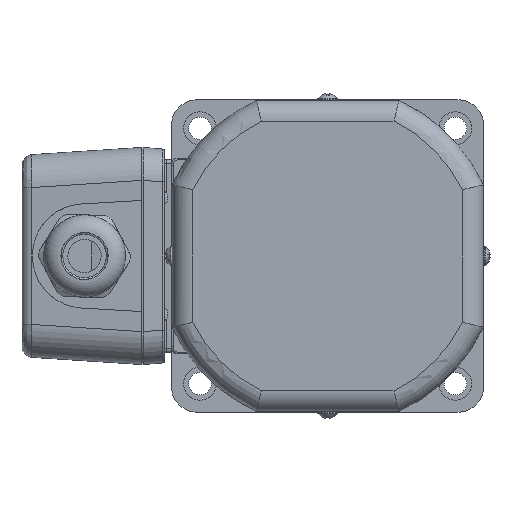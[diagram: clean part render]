
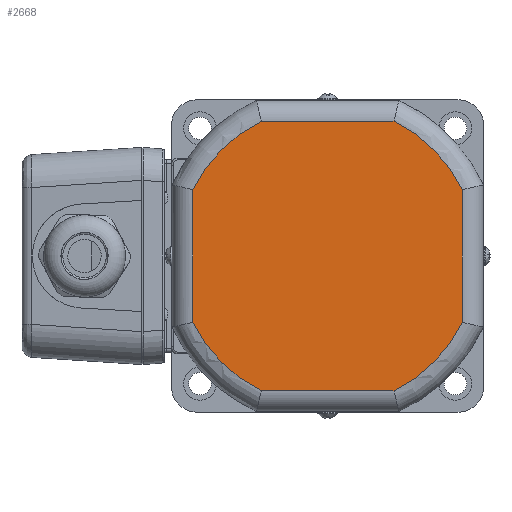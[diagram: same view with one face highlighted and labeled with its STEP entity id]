
A CAD part, left-side view. The second image highlights one B-rep face of the part: STEP entity #2668.
In plain terms, the highlighted planar face has unit normal (-1, 0, 0) as drawn and (0, 0, -1) by its records, which use the part's own axes.
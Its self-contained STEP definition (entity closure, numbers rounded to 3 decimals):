
#2001=CARTESIAN_POINT('',(38.8,-19.108,0.0));
#2002=VERTEX_POINT('',#2001);
#2029=CARTESIAN_POINT('',(19.108,-38.8,0.0));
#2030=VERTEX_POINT('',#2029);
#2048=CARTESIAN_POINT('',(0.0,0.0,0.0));
#2049=DIRECTION('',(0.0,0.0,1.0));
#2050=DIRECTION('',(0.707,-0.707,0.0));
#2051=AXIS2_PLACEMENT_3D('',#2048,#2049,#2050);
#2052=CIRCLE('',#2051,43.25);
#2053=EDGE_CURVE('',#2030,#2002,#2052,.T.);
#2065=CARTESIAN_POINT('',(-19.108,-38.8,0.0));
#2066=VERTEX_POINT('',#2065);
#2084=CARTESIAN_POINT('',(-19.108,-38.8,0.0));
#2085=DIRECTION('',(1.0,0.0,0.0));
#2086=VECTOR('',#2085,38.216);
#2087=LINE('',#2084,#2086);
#2088=EDGE_CURVE('',#2066,#2030,#2087,.T.);
#2107=CARTESIAN_POINT('',(38.8,19.108,0.0));
#2108=VERTEX_POINT('',#2107);
#2133=CARTESIAN_POINT('',(38.8,-19.108,0.0));
#2134=DIRECTION('',(0.0,1.0,0.0));
#2135=VECTOR('',#2134,38.216);
#2136=LINE('',#2133,#2135);
#2137=EDGE_CURVE('',#2002,#2108,#2136,.T.);
#2149=CARTESIAN_POINT('',(-38.8,-19.108,0.0));
#2150=VERTEX_POINT('',#2149);
#2168=CARTESIAN_POINT('',(0.0,0.0,0.0));
#2169=DIRECTION('',(0.0,0.0,1.0));
#2170=DIRECTION('',(-0.707,-0.707,0.0));
#2171=AXIS2_PLACEMENT_3D('',#2168,#2169,#2170);
#2172=CIRCLE('',#2171,43.25);
#2173=EDGE_CURVE('',#2150,#2066,#2172,.T.);
#2193=CARTESIAN_POINT('',(19.108,38.8,0.0));
#2194=VERTEX_POINT('',#2193);
#2220=CARTESIAN_POINT('',(0.0,0.0,0.0));
#2221=DIRECTION('',(0.0,0.0,1.0));
#2222=DIRECTION('',(0.707,0.707,0.0));
#2223=AXIS2_PLACEMENT_3D('',#2220,#2221,#2222);
#2224=CIRCLE('',#2223,43.25);
#2225=EDGE_CURVE('',#2108,#2194,#2224,.T.);
#2237=CARTESIAN_POINT('',(-38.8,19.108,0.0));
#2238=VERTEX_POINT('',#2237);
#2256=CARTESIAN_POINT('',(-38.8,19.108,0.0));
#2257=DIRECTION('',(0.0,-1.0,0.0));
#2258=VECTOR('',#2257,38.216);
#2259=LINE('',#2256,#2258);
#2260=EDGE_CURVE('',#2238,#2150,#2259,.T.);
#2277=CARTESIAN_POINT('',(-19.108,38.8,0.0));
#2278=VERTEX_POINT('',#2277);
#2305=CARTESIAN_POINT('',(19.108,38.8,0.0));
#2306=DIRECTION('',(-1.0,0.0,0.0));
#2307=VECTOR('',#2306,38.216);
#2308=LINE('',#2305,#2307);
#2309=EDGE_CURVE('',#2194,#2278,#2308,.T.);
#2320=CARTESIAN_POINT('',(0.0,0.0,0.0));
#2321=DIRECTION('',(0.0,0.0,1.0));
#2322=DIRECTION('',(-0.707,0.707,0.0));
#2323=AXIS2_PLACEMENT_3D('',#2320,#2321,#2322);
#2324=CIRCLE('',#2323,43.25);
#2325=EDGE_CURVE('',#2278,#2238,#2324,.T.);
#2653=CARTESIAN_POINT('',(0.,0.0,0.0));
#2654=DIRECTION('',(0.0,0.0,1.0));
#2655=DIRECTION('',(1.0,0.0,0.0));
#2656=AXIS2_PLACEMENT_3D('',#2653,#2654,#2655);
#2657=PLANE('',#2656);
#2658=ORIENTED_EDGE('',*,*,#2309,.F.);
#2659=ORIENTED_EDGE('',*,*,#2225,.F.);
#2660=ORIENTED_EDGE('',*,*,#2137,.F.);
#2661=ORIENTED_EDGE('',*,*,#2053,.F.);
#2662=ORIENTED_EDGE('',*,*,#2088,.F.);
#2663=ORIENTED_EDGE('',*,*,#2173,.F.);
#2664=ORIENTED_EDGE('',*,*,#2260,.F.);
#2665=ORIENTED_EDGE('',*,*,#2325,.F.);
#2666=EDGE_LOOP('',(#2658,#2659,#2660,#2661,#2662,#2663,#2664,#2665));
#2667=FACE_OUTER_BOUND('',#2666,.T.);
#2668=ADVANCED_FACE('',(#2667),#2657,.F.);
